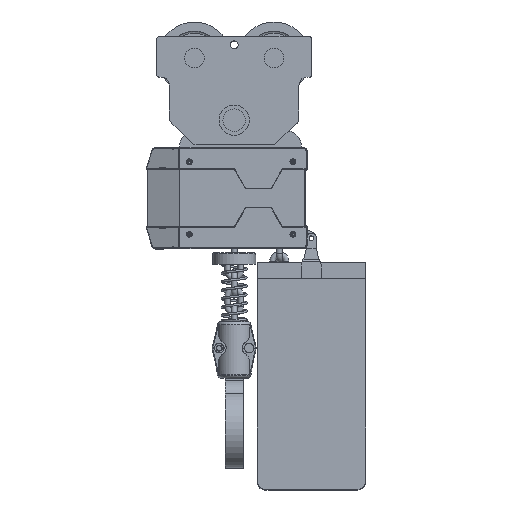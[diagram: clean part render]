
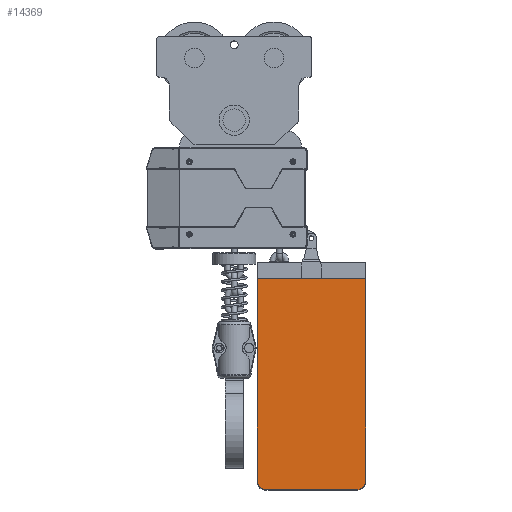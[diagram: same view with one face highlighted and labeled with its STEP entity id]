
A CAD part, top view. The second image highlights one B-rep face of the part: STEP entity #14369.
In plain terms, the highlighted planar face has unit normal (0, 0, 1).
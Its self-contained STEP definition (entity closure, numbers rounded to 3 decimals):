
#960=PLANE('',#49866);
#2333=FACE_OUTER_BOUND('',#19477,.T.);
#4833=LINE('',#77269,#8746);
#4835=LINE('',#77272,#8748);
#4836=LINE('',#77275,#8749);
#4837=LINE('',#77276,#8750);
#8746=VECTOR('',#56174,1.);
#8748=VECTOR('',#56178,1.);
#8749=VECTOR('',#56179,1.);
#8750=VECTOR('',#56180,1.);
#14369=ADVANCED_FACE('',(#2333),#960,.T.);
#19477=EDGE_LOOP('',(#24749,#24750,#24751,#24752,#24753,#24754));
#24749=ORIENTED_EDGE('',*,*,#41511,.F.);
#24750=ORIENTED_EDGE('',*,*,#41512,.F.);
#24751=ORIENTED_EDGE('',*,*,#41507,.T.);
#24752=ORIENTED_EDGE('',*,*,#41509,.T.);
#24753=ORIENTED_EDGE('',*,*,#41501,.T.);
#24754=ORIENTED_EDGE('',*,*,#41513,.T.);
#36673=VERTEX_POINT('',#77252);
#36674=VERTEX_POINT('',#77253);
#36679=VERTEX_POINT('',#77264);
#36680=VERTEX_POINT('',#77266);
#36681=VERTEX_POINT('',#77273);
#36682=VERTEX_POINT('',#77274);
#41501=EDGE_CURVE('',#36673,#36674,#47431,.T.);
#41507=EDGE_CURVE('',#36680,#36679,#47434,.T.);
#41509=EDGE_CURVE('',#36679,#36673,#4833,.T.);
#41511=EDGE_CURVE('',#36681,#36682,#4835,.T.);
#41512=EDGE_CURVE('',#36680,#36681,#4836,.T.);
#41513=EDGE_CURVE('',#36674,#36682,#4837,.T.);
#47431=CIRCLE('',#49859,15.);
#47434=CIRCLE('',#49863,15.);
#49859=AXIS2_PLACEMENT_3D('',#77251,#56158,#56159);
#49863=AXIS2_PLACEMENT_3D('',#77265,#56169,#56170);
#49866=AXIS2_PLACEMENT_3D('',#77277,#56181,#56182);
#56158=DIRECTION('',(0.,0.,1.));
#56159=DIRECTION('',(1.,0.,0.));
#56169=DIRECTION('',(0.,0.,1.));
#56170=DIRECTION('',(1.,0.,0.));
#56174=DIRECTION('',(1.,0.,0.));
#56178=DIRECTION('',(1.,0.,0.));
#56179=DIRECTION('',(0.,1.,0.));
#56180=DIRECTION('',(0.,1.,0.));
#56181=DIRECTION('',(0.,0.,1.));
#56182=DIRECTION('',(-1.,0.,0.));
#77251=CARTESIAN_POINT('',(1909.312,-249.604,196.225));
#77252=CARTESIAN_POINT('',(1909.312,-264.604,196.225));
#77253=CARTESIAN_POINT('',(1924.312,-249.604,196.225));
#77264=CARTESIAN_POINT('',(1729.812,-264.604,196.225));
#77265=CARTESIAN_POINT('',(1729.812,-249.604,196.225));
#77266=CARTESIAN_POINT('',(1714.812,-249.604,196.225));
#77269=CARTESIAN_POINT('',(1742.812,-264.604,196.225));
#77272=CARTESIAN_POINT('',(1744.812,143.396,196.225));
#77273=CARTESIAN_POINT('',(1714.812,143.396,196.225));
#77274=CARTESIAN_POINT('',(1924.312,143.396,196.225));
#77275=CARTESIAN_POINT('',(1714.812,941.888,196.225));
#77276=CARTESIAN_POINT('',(1924.312,170.396,196.225));
#77277=CARTESIAN_POINT('',(1744.812,170.396,196.225));
